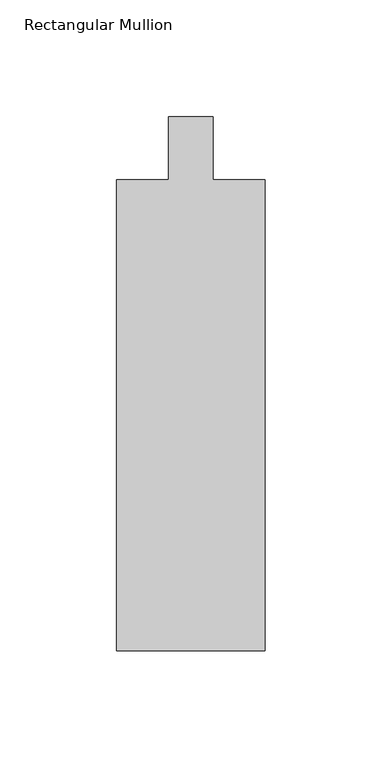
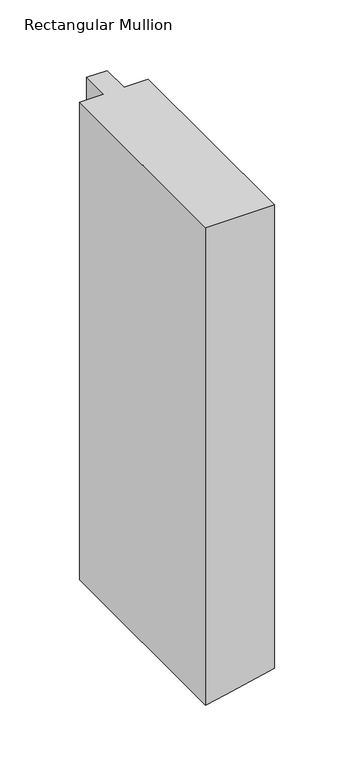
"""IFC4 building model written with IfcOpenShell, lengths in millimetres: member geometry."""

from ifc_helpers import new_model, si_unit, origin, place, context, project, spatial, faceted_brep, source, transform, mapped, element, save


def rectangular_mullion_5aa9732d(model_context):
    return source(origin(), model_context, "Body", "Brep", [
        faceted_brep([(31.75, -228.6, 0.0), (31.75, -26.9875, 0.0), (9.525, -26.9875, 0.0), (9.525, 0.0, 0.0), (-9.525, 0.0, 0.0), (-9.525, -26.9875, 0.0), (-31.75, -26.9875, 0.0), (-31.75, -228.6, 0.0), (31.75, -228.6, -451.2605297), (31.75, -26.9875, -451.2605297), (9.525, -26.9875, -456.1471673), (9.525, 0.0, -456.1471673), (-9.525, 0.0, -460.3357137), (-9.525, -26.9875, -460.3357137), (-13.6361042, -26.9875, -461.2396272), (-31.75, -26.9875, -465.2223513), (-31.75, -228.6, -465.2223513), (-13.6361042, -228.6, -461.2396272)], [[[0, 1, 2, 3, 4, 5, 6, 7]], [[1, 0, 8, 9]], [[2, 1, 9, 10]], [[3, 2, 10, 11]], [[4, 3, 11, 12]], [[5, 4, 12, 13]], [[6, 5, 13, 14, 15]], [[7, 6, 15, 16]], [[0, 7, 16, 17, 8]], [[8, 17, 14, 13, 12, 11, 10, 9]], [[17, 16, 15, 14]]]),
    ])


if __name__ == "__main__":
    model = new_model("IFC4")
    model_context = context("Model", 3, world=origin())
    ifc_project = project(units=[si_unit("LENGTHUNIT", "METRE", prefix="MILLI")], contexts=[model_context])
    site = spatial("IfcSite", under=ifc_project)
    building = spatial("IfcBuilding", under=site)
    placement = place(None, origin())
    rectangular_mullion_shape = rectangular_mullion_5aa9732d(model_context)
    element("IfcMember", 1, ObjectType="Rectangular Mullion : 2 1/2\" x 8\" - Capless", at=placement, inside=building, context=model_context, shape_type="MappedRepresentation", body=[
        mapped(rectangular_mullion_shape, transform((0.0, 0.0, 0.0), x_axis=(1.0, 0.0, 0.0), y_axis=(0.0, 1.0, 0.0), z_axis=(0.0, 0.0, 1.0))),
    ])
    save(model, "model.ifc")
